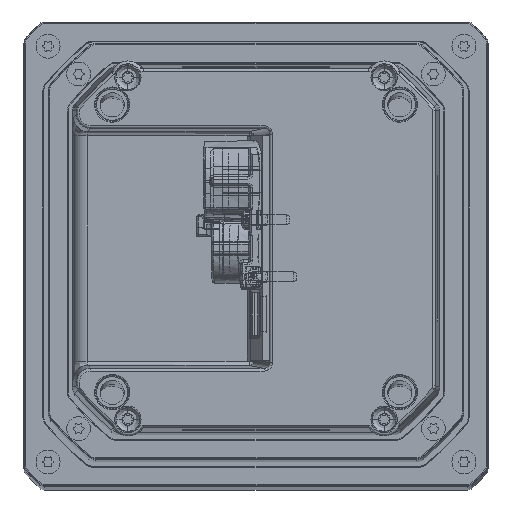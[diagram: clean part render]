
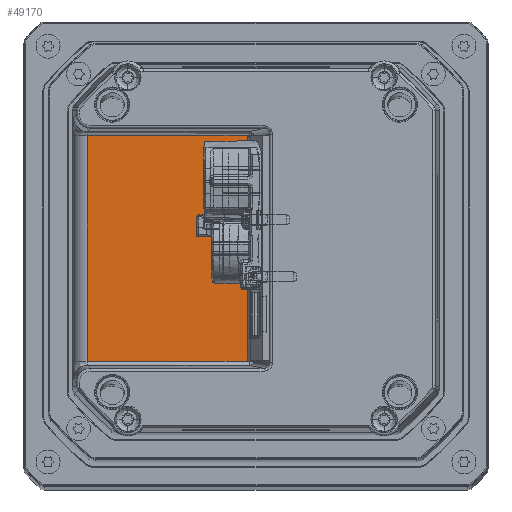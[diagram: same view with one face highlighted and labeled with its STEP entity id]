
A CAD part, top view. The second image highlights one B-rep face of the part: STEP entity #49170.
In plain terms, the highlighted planar face has unit normal (0, 0, 1) as drawn and (0, -1, 0) by its records, which use the part's own axes.
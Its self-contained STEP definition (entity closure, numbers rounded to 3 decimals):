
#45150=DIRECTION('',(0.,0.,-1.));
#45151=VECTOR('',#45150,79.103);
#45152=CARTESIAN_POINT('',(-59.287,32.,39.551));
#45153=LINE('',#45152,#45151);
#45263=DIRECTION('',(1.,0.,0.));
#45264=VECTOR('',#45263,56.882);
#45265=CARTESIAN_POINT('',(-59.287,32.,-39.551));
#45266=LINE('',#45265,#45264);
#45271=CARTESIAN_POINT('',(-2.406,32.,39.551));
#45272=CARTESIAN_POINT('',(-2.379,32.,39.551));
#45273=CARTESIAN_POINT('',(-2.326,32.,39.547));
#45274=CARTESIAN_POINT('',(-2.249,32.,39.529));
#45275=CARTESIAN_POINT('',(-2.176,32.,39.499));
#45276=CARTESIAN_POINT('',(-2.109,32.,39.459));
#45277=CARTESIAN_POINT('',(-2.048,32.,39.408));
#45278=CARTESIAN_POINT('',(-1.997,32.,39.349));
#45279=CARTESIAN_POINT('',(-1.955,32.,39.283));
#45280=CARTESIAN_POINT('',(-1.924,32.,39.21));
#45281=CARTESIAN_POINT('',(-1.905,32.,39.134));
#45282=CARTESIAN_POINT('',(-1.901,32.,39.081));
#45283=CARTESIAN_POINT('',(-1.901,32.,39.054));
#45285=CARTESIAN_POINT('',(-1.901,32.,-39.054));
#45286=CARTESIAN_POINT('',(-1.901,32.,-39.08));
#45287=CARTESIAN_POINT('',(-1.905,32.,-39.132));
#45288=CARTESIAN_POINT('',(-1.924,32.,-39.208));
#45289=CARTESIAN_POINT('',(-1.954,32.,-39.281));
#45290=CARTESIAN_POINT('',(-1.995,32.,-39.347));
#45291=CARTESIAN_POINT('',(-2.046,32.,-39.406));
#45292=CARTESIAN_POINT('',(-2.106,32.,-39.457));
#45293=CARTESIAN_POINT('',(-2.174,32.,-39.498));
#45294=CARTESIAN_POINT('',(-2.247,32.,-39.529));
#45295=CARTESIAN_POINT('',(-2.325,32.,-39.547));
#45296=CARTESIAN_POINT('',(-2.379,32.,-39.551));
#45297=CARTESIAN_POINT('',(-2.406,32.,-39.551));
#45324=DIRECTION('',(-1.,0.,0.));
#45325=VECTOR('',#45324,56.882);
#45326=CARTESIAN_POINT('',(-2.406,32.,39.551));
#45327=LINE('',#45326,#45325);
#45414=DIRECTION('',(0.,0.,1.));
#45415=VECTOR('',#45414,78.108);
#45416=CARTESIAN_POINT('',(-1.901,32.,-39.054));
#45417=LINE('',#45416,#45415);
#47087=CARTESIAN_POINT('',(-59.287,32.,-39.551));
#47088=VERTEX_POINT('',#47087);
#47089=CARTESIAN_POINT('',(-59.287,32.,39.551));
#47090=VERTEX_POINT('',#47089);
#47091=CARTESIAN_POINT('',(-2.406,32.,39.551));
#47092=VERTEX_POINT('',#47091);
#47093=CARTESIAN_POINT('',(-1.901,32.,39.054));
#47094=VERTEX_POINT('',#47093);
#47095=CARTESIAN_POINT('',(-1.901,32.,-39.054));
#47096=VERTEX_POINT('',#47095);
#47097=VERTEX_POINT('',#45297);
#49153=CARTESIAN_POINT('',(0.,32.,0.));
#49154=DIRECTION('',(0.,-1.,0.));
#49155=DIRECTION('',(1.,0.,0.));
#49156=AXIS2_PLACEMENT_3D('',#49153,#49154,#49155);
#49157=PLANE('',#49156);
#49158=ORIENTED_EDGE('',*,*,#48796,.F.);
#49160=ORIENTED_EDGE('',*,*,#49159,.F.);
#49162=ORIENTED_EDGE('',*,*,#49161,.T.);
#49164=ORIENTED_EDGE('',*,*,#49163,.F.);
#49166=ORIENTED_EDGE('',*,*,#49165,.T.);
#49167=ORIENTED_EDGE('',*,*,#49145,.F.);
#49168=EDGE_LOOP('',(#49158,#49160,#49162,#49164,#49166,#49167));
#49169=FACE_OUTER_BOUND('',#49168,.F.);
#45284=B_SPLINE_CURVE_WITH_KNOTS('',3,(#45271,#45272,#45273,#45274,#45275,
#45276,#45277,#45278,#45279,#45280,#45281,#45282,#45283),.UNSPECIFIED.,.F.,.F.,(
4,1,1,1,1,1,1,1,1,1,4),(0.,0.1,0.2,
0.3,0.399,0.499,0.598,
0.697,0.798,0.899,1.),.UNSPECIFIED.);
#45298=B_SPLINE_CURVE_WITH_KNOTS('',3,(#45285,#45286,#45287,#45288,#45289,
#45290,#45291,#45292,#45293,#45294,#45295,#45296,#45297),.UNSPECIFIED.,.F.,.F.,(
4,1,1,1,1,1,1,1,1,1,4),(0.,0.1,0.199,
0.299,0.398,0.498,0.597,
0.697,0.797,0.898,1.),.UNSPECIFIED.);
#48796=EDGE_CURVE('',#47090,#47088,#45153,.T.);
#49145=EDGE_CURVE('',#47088,#47097,#45266,.T.);
#49159=EDGE_CURVE('',#47092,#47090,#45327,.T.);
#49161=EDGE_CURVE('',#47092,#47094,#45284,.T.);
#49163=EDGE_CURVE('',#47096,#47094,#45417,.T.);
#49165=EDGE_CURVE('',#47096,#47097,#45298,.T.);
#49170=ADVANCED_FACE('',(#49169),#49157,.T.);
